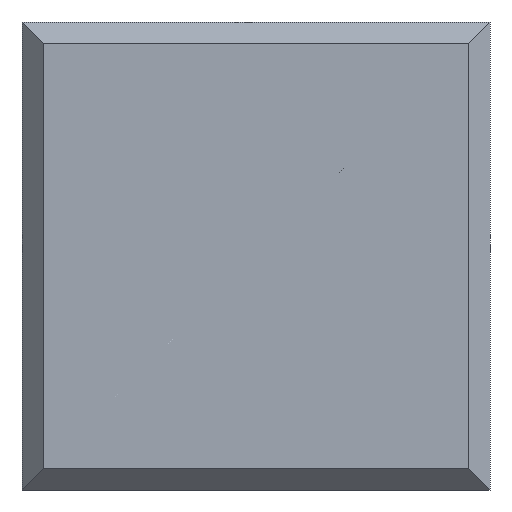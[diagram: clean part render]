
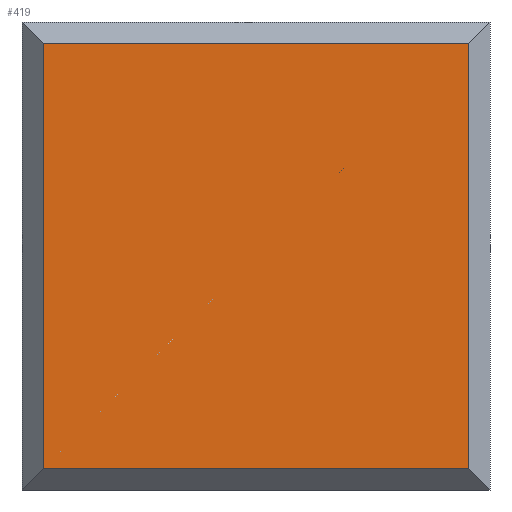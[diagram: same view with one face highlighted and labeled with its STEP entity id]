
A CAD part, front view. The second image highlights one B-rep face of the part: STEP entity #419.
In plain terms, the highlighted planar face has unit normal (0, -1, 0).
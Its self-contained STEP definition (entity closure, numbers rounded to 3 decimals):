
#9 = CARTESIAN_POINT ( 'NONE',  ( 11., -8., -10. ) ) ;
#36 = AXIS2_PLACEMENT_3D ( 'NONE', #763, #643, #171 ) ;
#65 = EDGE_CURVE ( 'NONE', #232, #178, #239, .T. ) ;
#71 = VECTOR ( 'NONE', #579, 1000. ) ;
#129 = CARTESIAN_POINT ( 'NONE',  ( -10., -8., 10. ) ) ;
#171 = DIRECTION ( 'NONE',  ( -1., 0., 0. ) ) ;
#178 = VERTEX_POINT ( 'NONE', #214 ) ;
#214 = CARTESIAN_POINT ( 'NONE',  ( 10., -8., 10. ) ) ;
#222 = CARTESIAN_POINT ( 'NONE',  ( -10., -8., -10. ) ) ;
#232 = VERTEX_POINT ( 'NONE', #129 ) ;
#239 = LINE ( 'NONE', #679, #807 ) ;
#286 = EDGE_LOOP ( 'NONE', ( #378, #665, #917, #719 ) ) ;
#344 = CARTESIAN_POINT ( 'NONE',  ( -10., -8., 10. ) ) ;
#349 = LINE ( 'NONE', #846, #71 ) ;
#378 = ORIENTED_EDGE ( 'NONE', *, *, #65, .F. ) ;
#402 = VECTOR ( 'NONE', #841, 1000. ) ;
#419 = ADVANCED_FACE ( 'NONE', ( #911 ), #574, .T. ) ;
#420 = EDGE_CURVE ( 'NONE', #232, #702, #750, .T. ) ;
#473 = EDGE_CURVE ( 'NONE', #178, #582, #349, .T. ) ;
#547 = CARTESIAN_POINT ( 'NONE',  ( 10., -8., -10. ) ) ;
#574 = PLANE ( 'NONE',  #36 ) ;
#579 = DIRECTION ( 'NONE',  ( 0., 0., -1. ) ) ;
#582 = VERTEX_POINT ( 'NONE', #547 ) ;
#603 = LINE ( 'NONE', #9, #402 ) ;
#643 = DIRECTION ( 'NONE',  ( 0., -1., 0. ) ) ;
#665 = ORIENTED_EDGE ( 'NONE', *, *, #420, .T. ) ;
#668 = DIRECTION ( 'NONE',  ( 1., 0., 0. ) ) ;
#679 = CARTESIAN_POINT ( 'NONE',  ( 11., -8., 10. ) ) ;
#702 = VERTEX_POINT ( 'NONE', #222 ) ;
#719 = ORIENTED_EDGE ( 'NONE', *, *, #473, .F. ) ;
#750 = LINE ( 'NONE', #344, #777 ) ;
#763 = CARTESIAN_POINT ( 'NONE',  ( 10., -8., 10. ) ) ;
#777 = VECTOR ( 'NONE', #842, 1000. ) ;
#807 = VECTOR ( 'NONE', #668, 1000. ) ;
#841 = DIRECTION ( 'NONE',  ( -1., 0., 0. ) ) ;
#842 = DIRECTION ( 'NONE',  ( 0., 0., -1. ) ) ;
#846 = CARTESIAN_POINT ( 'NONE',  ( 10., -8., 11. ) ) ;
#896 = EDGE_CURVE ( 'NONE', #582, #702, #603, .T. ) ;
#911 = FACE_OUTER_BOUND ( 'NONE', #286, .T. ) ;
#917 = ORIENTED_EDGE ( 'NONE', *, *, #896, .F. ) ;
